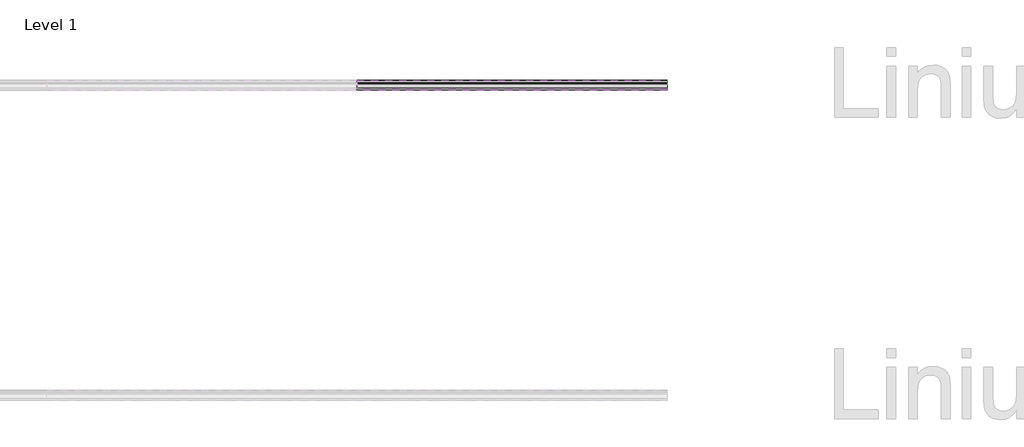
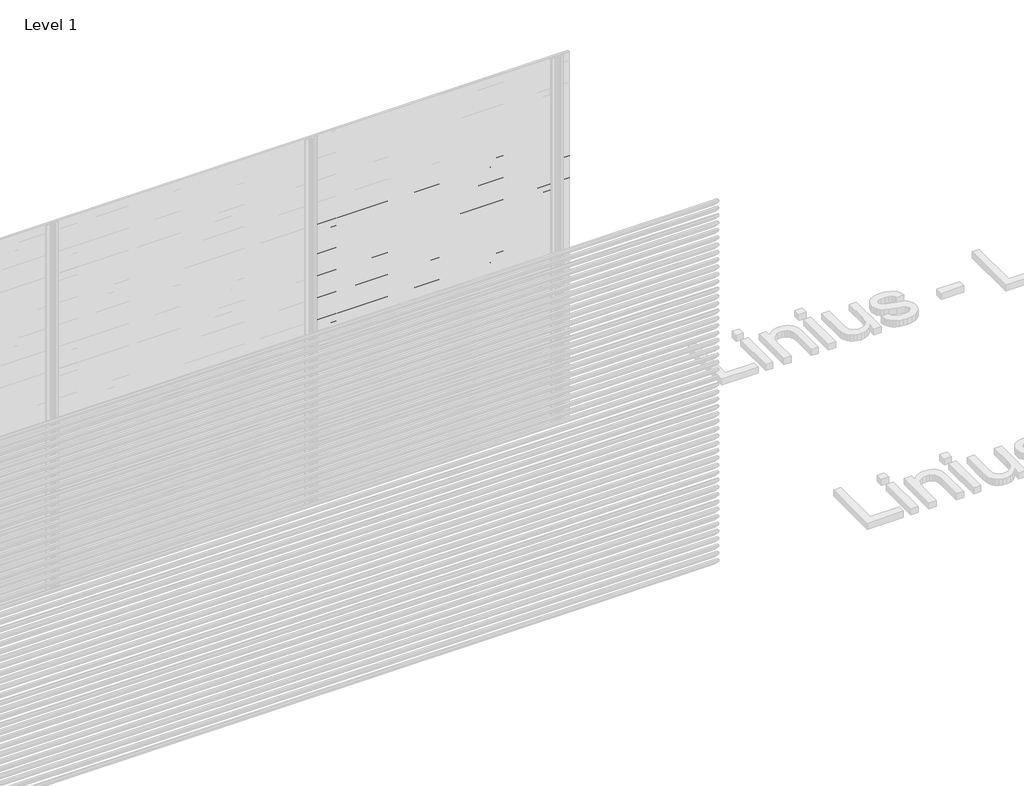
# One storey, part 42 of 153: 33 proxies.
"""IFC4 building model written with IfcOpenShell, lengths in millimetres."""

from ifc_helpers import new_model, si_unit, point, frame, frame_2d, origin, place, context, project, spatial, polyline, circle_curve, trimmed, segment, composite_curve, outline, extrude, element, save

model = new_model("IFC4")

# Units and contexts
model_context = context("Model", 3, world=origin())
ifc_project = project(units=[si_unit("LENGTHUNIT", "METRE", prefix="MILLI")], contexts=[model_context])

# Site, building, storey
site = spatial("IfcSite", under=ifc_project)
building = spatial("IfcBuilding", under=site)
storey = spatial("IfcBuildingStorey", under=building, Name="Level 1", Elevation=0.0)

# Proxies
placement = place(None, origin())
element("IfcBuildingElementProxy", 1, Name="Wall Sweeps", at=placement, inside=storey, context=model_context, shape_type="SweptSolid", body=[
    extrude(outline(composite_curve([segment(polyline([(6989.0270068, 2340.0), (7003.8471842, 2338.7034025), (7053.0270068, 2285.0102749), (7053.0270068, 2273.6108187)]), True, "CONTINUOUS"), segment(trimmed(circle_curve(frame_2d((7049.7613584, 2273.897153)), 3.2781774), [point((7053.0270068, 2273.6108187))], [point((7050.4369373, 2270.6893438))], False, "CARTESIAN"), True, "CONTINUOUS"), segment(polyline([(7050.4369373, 2270.6893438), (7038.1625655, 2271.6282758), (6989.0270068, 2325.2730773), (6989.0270068, 2340.0)]), True, "CONTINUOUS")], self_intersect=False), holes=[composite_curve([segment(polyline([(7003.1351705, 2337.2599659), (6990.5270068, 2338.3630372), (6990.5270068, 2325.856213), (7038.8681968, 2273.0786805), (7050.3042474, 2272.2038762)]), True, "CONTINUOUS"), segment(trimmed(circle_curve(frame_2d((7049.7613584, 2273.897153)), 1.7781774), [point((7050.3042474, 2272.2038762))], [point((7051.5270068, 2273.6864389))], True, "CARTESIAN"), True, "CONTINUOUS"), segment(polyline([(7051.5270068, 2273.6864389), (7051.5270068, 2284.4271392), (7003.1351705, 2337.2599659)]), True, "CONTINUOUS")], self_intersect=False)]), frame((48966.6208096, 0.0, 0.0), z_axis=(1.0, 0.0, 0.0), x_axis=(0.0, 1.0, 0.0)), (0.0, 0.0, 1.0), 2000.0000001),
])
element("IfcBuildingElementProxy", 2, Name="Wall Sweeps", at=placement, inside=storey, context=model_context, shape_type="SweptSolid", body=[
    extrude(outline(composite_curve([segment(polyline([(6989.0270068, 2280.0), (7003.8471842, 2278.7034025), (7053.0270068, 2225.0102749), (7053.0270068, 2213.6108187)]), True, "CONTINUOUS"), segment(trimmed(circle_curve(frame_2d((7049.7613584, 2213.897153)), 3.2781774), [point((7053.0270068, 2213.6108187))], [point((7050.4369373, 2210.6893438))], False, "CARTESIAN"), True, "CONTINUOUS"), segment(polyline([(7050.4369373, 2210.6893438), (7038.1625655, 2211.6282758), (6989.0270068, 2265.2730773), (6989.0270068, 2280.0)]), True, "CONTINUOUS")], self_intersect=False), holes=[composite_curve([segment(polyline([(7003.1351705, 2277.2599659), (6990.5270068, 2278.3630372), (6990.5270068, 2265.856213), (7038.8681968, 2213.0786805), (7050.3042474, 2212.2038762)]), True, "CONTINUOUS"), segment(trimmed(circle_curve(frame_2d((7049.7613584, 2213.897153)), 1.7781774), [point((7050.3042474, 2212.2038762))], [point((7051.5270068, 2213.6864389))], True, "CARTESIAN"), True, "CONTINUOUS"), segment(polyline([(7051.5270068, 2213.6864389), (7051.5270068, 2224.4271392), (7003.1351705, 2277.2599659)]), True, "CONTINUOUS")], self_intersect=False)]), frame((48966.6208096, 0.0, 0.0), z_axis=(1.0, 0.0, 0.0), x_axis=(0.0, 1.0, 0.0)), (0.0, 0.0, 1.0), 2000.0000001),
])
element("IfcBuildingElementProxy", 3, Name="Wall Sweeps", at=placement, inside=storey, context=model_context, shape_type="SweptSolid", body=[
    extrude(outline(composite_curve([segment(polyline([(6989.0270068, 2220.0), (7003.8471842, 2218.7034025), (7053.0270068, 2165.0102749), (7053.0270068, 2153.6108187)]), True, "CONTINUOUS"), segment(trimmed(circle_curve(frame_2d((7049.7613584, 2153.897153)), 3.2781774), [point((7053.0270068, 2153.6108187))], [point((7050.4369373, 2150.6893438))], False, "CARTESIAN"), True, "CONTINUOUS"), segment(polyline([(7050.4369373, 2150.6893438), (7038.1625655, 2151.6282758), (6989.0270068, 2205.2730773), (6989.0270068, 2220.0)]), True, "CONTINUOUS")], self_intersect=False), holes=[composite_curve([segment(polyline([(7003.1351705, 2217.2599659), (6990.5270068, 2218.3630372), (6990.5270068, 2205.856213), (7038.8681968, 2153.0786805), (7050.3042474, 2152.2038762)]), True, "CONTINUOUS"), segment(trimmed(circle_curve(frame_2d((7049.7613584, 2153.897153)), 1.7781774), [point((7050.3042474, 2152.2038762))], [point((7051.5270068, 2153.6864389))], True, "CARTESIAN"), True, "CONTINUOUS"), segment(polyline([(7051.5270068, 2153.6864389), (7051.5270068, 2164.4271392), (7003.1351705, 2217.2599659)]), True, "CONTINUOUS")], self_intersect=False)]), frame((48966.6208096, 0.0, 0.0), z_axis=(1.0, 0.0, 0.0), x_axis=(0.0, 1.0, 0.0)), (0.0, 0.0, 1.0), 2000.0000001),
])
element("IfcBuildingElementProxy", 4, Name="Wall Sweeps", at=placement, inside=storey, context=model_context, shape_type="SweptSolid", body=[
    extrude(outline(composite_curve([segment(polyline([(6989.0270068, 2160.0), (7003.8471842, 2158.7034025), (7053.0270068, 2105.0102749), (7053.0270068, 2093.6108187)]), True, "CONTINUOUS"), segment(trimmed(circle_curve(frame_2d((7049.7613584, 2093.897153)), 3.2781774), [point((7053.0270068, 2093.6108187))], [point((7050.4369373, 2090.6893438))], False, "CARTESIAN"), True, "CONTINUOUS"), segment(polyline([(7050.4369373, 2090.6893438), (7038.1625655, 2091.6282758), (6989.0270068, 2145.2730773), (6989.0270068, 2160.0)]), True, "CONTINUOUS")], self_intersect=False), holes=[composite_curve([segment(polyline([(7003.1351705, 2157.2599659), (6990.5270068, 2158.3630372), (6990.5270068, 2145.856213), (7038.8681968, 2093.0786805), (7050.3042474, 2092.2038762)]), True, "CONTINUOUS"), segment(trimmed(circle_curve(frame_2d((7049.7613584, 2093.897153)), 1.7781774), [point((7050.3042474, 2092.2038762))], [point((7051.5270068, 2093.6864389))], True, "CARTESIAN"), True, "CONTINUOUS"), segment(polyline([(7051.5270068, 2093.6864389), (7051.5270068, 2104.4271392), (7003.1351705, 2157.2599659)]), True, "CONTINUOUS")], self_intersect=False)]), frame((48966.6208096, 0.0, 0.0), z_axis=(1.0, 0.0, 0.0), x_axis=(0.0, 1.0, 0.0)), (0.0, 0.0, 1.0), 2000.0000001),
])
element("IfcBuildingElementProxy", 5, Name="Wall Sweeps", at=placement, inside=storey, context=model_context, shape_type="SweptSolid", body=[
    extrude(outline(composite_curve([segment(polyline([(6989.0270068, 2100.0), (7003.8471842, 2098.7034025), (7053.0270068, 2045.0102749), (7053.0270068, 2033.6108187)]), True, "CONTINUOUS"), segment(trimmed(circle_curve(frame_2d((7049.7613584, 2033.897153)), 3.2781774), [point((7053.0270068, 2033.6108187))], [point((7050.4369373, 2030.6893438))], False, "CARTESIAN"), True, "CONTINUOUS"), segment(polyline([(7050.4369373, 2030.6893438), (7038.1625655, 2031.6282758), (6989.0270068, 2085.2730773), (6989.0270068, 2100.0)]), True, "CONTINUOUS")], self_intersect=False), holes=[composite_curve([segment(polyline([(7003.1351705, 2097.2599659), (6990.5270068, 2098.3630372), (6990.5270068, 2085.856213), (7038.8681968, 2033.0786805), (7050.3042474, 2032.2038762)]), True, "CONTINUOUS"), segment(trimmed(circle_curve(frame_2d((7049.7613584, 2033.897153)), 1.7781774), [point((7050.3042474, 2032.2038762))], [point((7051.5270068, 2033.6864389))], True, "CARTESIAN"), True, "CONTINUOUS"), segment(polyline([(7051.5270068, 2033.6864389), (7051.5270068, 2044.4271392), (7003.1351705, 2097.2599659)]), True, "CONTINUOUS")], self_intersect=False)]), frame((48966.6208096, 0.0, 0.0), z_axis=(1.0, 0.0, 0.0), x_axis=(0.0, 1.0, 0.0)), (0.0, 0.0, 1.0), 2000.0000001),
])
element("IfcBuildingElementProxy", 6, Name="Wall Sweeps", at=placement, inside=storey, context=model_context, shape_type="SweptSolid", body=[
    extrude(outline(composite_curve([segment(polyline([(6989.0270068, 2040.0), (7003.8471842, 2038.7034025), (7053.0270068, 1985.0102749), (7053.0270068, 1973.6108187)]), True, "CONTINUOUS"), segment(trimmed(circle_curve(frame_2d((7049.7613584, 1973.897153)), 3.2781774), [point((7053.0270068, 1973.6108187))], [point((7050.4369373, 1970.6893438))], False, "CARTESIAN"), True, "CONTINUOUS"), segment(polyline([(7050.4369373, 1970.6893438), (7038.1625655, 1971.6282758), (6989.0270068, 2025.2730773), (6989.0270068, 2040.0)]), True, "CONTINUOUS")], self_intersect=False), holes=[composite_curve([segment(polyline([(7003.1351705, 2037.2599659), (6990.5270068, 2038.3630372), (6990.5270068, 2025.856213), (7038.8681968, 1973.0786805), (7050.3042474, 1972.2038762)]), True, "CONTINUOUS"), segment(trimmed(circle_curve(frame_2d((7049.7613584, 1973.897153)), 1.7781774), [point((7050.3042474, 1972.2038762))], [point((7051.5270068, 1973.6864389))], True, "CARTESIAN"), True, "CONTINUOUS"), segment(polyline([(7051.5270068, 1973.6864389), (7051.5270068, 1984.4271392), (7003.1351705, 2037.2599659)]), True, "CONTINUOUS")], self_intersect=False)]), frame((48966.6208096, 0.0, 0.0), z_axis=(1.0, 0.0, 0.0), x_axis=(0.0, 1.0, 0.0)), (0.0, 0.0, 1.0), 2000.0000001),
])
element("IfcBuildingElementProxy", 7, Name="Wall Sweeps", at=placement, inside=storey, context=model_context, shape_type="SweptSolid", body=[
    extrude(outline(composite_curve([segment(polyline([(6989.0270068, 1980.0), (7003.8471842, 1978.7034025), (7053.0270068, 1925.0102749), (7053.0270068, 1913.6108187)]), True, "CONTINUOUS"), segment(trimmed(circle_curve(frame_2d((7049.7613584, 1913.897153)), 3.2781774), [point((7053.0270068, 1913.6108187))], [point((7050.4369373, 1910.6893438))], False, "CARTESIAN"), True, "CONTINUOUS"), segment(polyline([(7050.4369373, 1910.6893438), (7038.1625655, 1911.6282758), (6989.0270068, 1965.2730773), (6989.0270068, 1980.0)]), True, "CONTINUOUS")], self_intersect=False), holes=[composite_curve([segment(polyline([(7003.1351705, 1977.2599659), (6990.5270068, 1978.3630372), (6990.5270068, 1965.856213), (7038.8681968, 1913.0786805), (7050.3042474, 1912.2038762)]), True, "CONTINUOUS"), segment(trimmed(circle_curve(frame_2d((7049.7613584, 1913.897153)), 1.7781774), [point((7050.3042474, 1912.2038762))], [point((7051.5270068, 1913.6864389))], True, "CARTESIAN"), True, "CONTINUOUS"), segment(polyline([(7051.5270068, 1913.6864389), (7051.5270068, 1924.4271392), (7003.1351705, 1977.2599659)]), True, "CONTINUOUS")], self_intersect=False)]), frame((48966.6208096, 0.0, 0.0), z_axis=(1.0, 0.0, 0.0), x_axis=(0.0, 1.0, 0.0)), (0.0, 0.0, 1.0), 2000.0000001),
])
element("IfcBuildingElementProxy", 8, Name="Wall Sweeps", at=placement, inside=storey, context=model_context, shape_type="SweptSolid", body=[
    extrude(outline(composite_curve([segment(polyline([(6989.0270068, 1920.0), (7003.8471842, 1918.7034025), (7053.0270068, 1865.0102749), (7053.0270068, 1853.6108187)]), True, "CONTINUOUS"), segment(trimmed(circle_curve(frame_2d((7049.7613584, 1853.897153)), 3.2781774), [point((7053.0270068, 1853.6108187))], [point((7050.4369373, 1850.6893438))], False, "CARTESIAN"), True, "CONTINUOUS"), segment(polyline([(7050.4369373, 1850.6893438), (7038.1625655, 1851.6282758), (6989.0270068, 1905.2730773), (6989.0270068, 1920.0)]), True, "CONTINUOUS")], self_intersect=False), holes=[composite_curve([segment(polyline([(7003.1351705, 1917.2599659), (6990.5270068, 1918.3630372), (6990.5270068, 1905.856213), (7038.8681968, 1853.0786805), (7050.3042474, 1852.2038762)]), True, "CONTINUOUS"), segment(trimmed(circle_curve(frame_2d((7049.7613584, 1853.897153)), 1.7781774), [point((7050.3042474, 1852.2038762))], [point((7051.5270068, 1853.6864389))], True, "CARTESIAN"), True, "CONTINUOUS"), segment(polyline([(7051.5270068, 1853.6864389), (7051.5270068, 1864.4271392), (7003.1351705, 1917.2599659)]), True, "CONTINUOUS")], self_intersect=False)]), frame((48966.6208096, 0.0, 0.0), z_axis=(1.0, 0.0, 0.0), x_axis=(0.0, 1.0, 0.0)), (0.0, 0.0, 1.0), 2000.0000001),
])
element("IfcBuildingElementProxy", 9, Name="Wall Sweeps", at=placement, inside=storey, context=model_context, shape_type="SweptSolid", body=[
    extrude(outline(composite_curve([segment(polyline([(6989.0270068, 1860.0), (7003.8471842, 1858.7034025), (7053.0270068, 1805.0102749), (7053.0270068, 1793.6108187)]), True, "CONTINUOUS"), segment(trimmed(circle_curve(frame_2d((7049.7613584, 1793.897153)), 3.2781774), [point((7053.0270068, 1793.6108187))], [point((7050.4369373, 1790.6893438))], False, "CARTESIAN"), True, "CONTINUOUS"), segment(polyline([(7050.4369373, 1790.6893438), (7038.1625655, 1791.6282758), (6989.0270068, 1845.2730773), (6989.0270068, 1860.0)]), True, "CONTINUOUS")], self_intersect=False), holes=[composite_curve([segment(polyline([(7003.1351705, 1857.2599659), (6990.5270068, 1858.3630372), (6990.5270068, 1845.856213), (7038.8681968, 1793.0786805), (7050.3042474, 1792.2038762)]), True, "CONTINUOUS"), segment(trimmed(circle_curve(frame_2d((7049.7613584, 1793.897153)), 1.7781774), [point((7050.3042474, 1792.2038762))], [point((7051.5270068, 1793.6864389))], True, "CARTESIAN"), True, "CONTINUOUS"), segment(polyline([(7051.5270068, 1793.6864389), (7051.5270068, 1804.4271392), (7003.1351705, 1857.2599659)]), True, "CONTINUOUS")], self_intersect=False)]), frame((48966.6208096, 0.0, 0.0), z_axis=(1.0, 0.0, 0.0), x_axis=(0.0, 1.0, 0.0)), (0.0, 0.0, 1.0), 2000.0000001),
])
element("IfcBuildingElementProxy", 10, Name="Wall Sweeps", at=placement, inside=storey, context=model_context, shape_type="SweptSolid", body=[
    extrude(outline(composite_curve([segment(polyline([(6989.0270068, 1800.0), (7003.8471842, 1798.7034025), (7053.0270068, 1745.0102749), (7053.0270068, 1733.6108187)]), True, "CONTINUOUS"), segment(trimmed(circle_curve(frame_2d((7049.7613584, 1733.897153)), 3.2781774), [point((7053.0270068, 1733.6108187))], [point((7050.4369373, 1730.6893438))], False, "CARTESIAN"), True, "CONTINUOUS"), segment(polyline([(7050.4369373, 1730.6893438), (7038.1625655, 1731.6282758), (6989.0270068, 1785.2730773), (6989.0270068, 1800.0)]), True, "CONTINUOUS")], self_intersect=False), holes=[composite_curve([segment(polyline([(7003.1351705, 1797.2599659), (6990.5270068, 1798.3630372), (6990.5270068, 1785.856213), (7038.8681968, 1733.0786805), (7050.3042474, 1732.2038762)]), True, "CONTINUOUS"), segment(trimmed(circle_curve(frame_2d((7049.7613584, 1733.897153)), 1.7781774), [point((7050.3042474, 1732.2038762))], [point((7051.5270068, 1733.6864389))], True, "CARTESIAN"), True, "CONTINUOUS"), segment(polyline([(7051.5270068, 1733.6864389), (7051.5270068, 1744.4271392), (7003.1351705, 1797.2599659)]), True, "CONTINUOUS")], self_intersect=False)]), frame((48966.6208096, 0.0, 0.0), z_axis=(1.0, 0.0, 0.0), x_axis=(0.0, 1.0, 0.0)), (0.0, 0.0, 1.0), 2000.0000001),
])
element("IfcBuildingElementProxy", 11, Name="Wall Sweeps", at=placement, inside=storey, context=model_context, shape_type="SweptSolid", body=[
    extrude(outline(composite_curve([segment(polyline([(6989.0270068, 1740.0), (7003.8471842, 1738.7034025), (7053.0270068, 1685.0102749), (7053.0270068, 1673.6108187)]), True, "CONTINUOUS"), segment(trimmed(circle_curve(frame_2d((7049.7613584, 1673.897153)), 3.2781774), [point((7053.0270068, 1673.6108187))], [point((7050.4369373, 1670.6893438))], False, "CARTESIAN"), True, "CONTINUOUS"), segment(polyline([(7050.4369373, 1670.6893438), (7038.1625655, 1671.6282758), (6989.0270068, 1725.2730773), (6989.0270068, 1740.0)]), True, "CONTINUOUS")], self_intersect=False), holes=[composite_curve([segment(polyline([(7003.1351705, 1737.2599659), (6990.5270068, 1738.3630372), (6990.5270068, 1725.856213), (7038.8681968, 1673.0786805), (7050.3042474, 1672.2038762)]), True, "CONTINUOUS"), segment(trimmed(circle_curve(frame_2d((7049.7613584, 1673.897153)), 1.7781774), [point((7050.3042474, 1672.2038762))], [point((7051.5270068, 1673.6864389))], True, "CARTESIAN"), True, "CONTINUOUS"), segment(polyline([(7051.5270068, 1673.6864389), (7051.5270068, 1684.4271392), (7003.1351705, 1737.2599659)]), True, "CONTINUOUS")], self_intersect=False)]), frame((48966.6208096, 0.0, 0.0), z_axis=(1.0, 0.0, 0.0), x_axis=(0.0, 1.0, 0.0)), (0.0, 0.0, 1.0), 2000.0000001),
])
element("IfcBuildingElementProxy", 12, Name="Wall Sweeps", at=placement, inside=storey, context=model_context, shape_type="SweptSolid", body=[
    extrude(outline(composite_curve([segment(polyline([(6989.0270068, 1680.0), (7003.8471842, 1678.7034025), (7053.0270068, 1625.0102749), (7053.0270068, 1613.6108187)]), True, "CONTINUOUS"), segment(trimmed(circle_curve(frame_2d((7049.7613584, 1613.897153)), 3.2781774), [point((7053.0270068, 1613.6108187))], [point((7050.4369373, 1610.6893438))], False, "CARTESIAN"), True, "CONTINUOUS"), segment(polyline([(7050.4369373, 1610.6893438), (7038.1625655, 1611.6282758), (6989.0270068, 1665.2730773), (6989.0270068, 1680.0)]), True, "CONTINUOUS")], self_intersect=False), holes=[composite_curve([segment(polyline([(7003.1351705, 1677.2599659), (6990.5270068, 1678.3630372), (6990.5270068, 1665.856213), (7038.8681968, 1613.0786805), (7050.3042474, 1612.2038762)]), True, "CONTINUOUS"), segment(trimmed(circle_curve(frame_2d((7049.7613584, 1613.897153)), 1.7781774), [point((7050.3042474, 1612.2038762))], [point((7051.5270068, 1613.6864389))], True, "CARTESIAN"), True, "CONTINUOUS"), segment(polyline([(7051.5270068, 1613.6864389), (7051.5270068, 1624.4271392), (7003.1351705, 1677.2599659)]), True, "CONTINUOUS")], self_intersect=False)]), frame((48966.6208096, 0.0, 0.0), z_axis=(1.0, 0.0, 0.0), x_axis=(0.0, 1.0, 0.0)), (0.0, 0.0, 1.0), 2000.0000001),
])
element("IfcBuildingElementProxy", 13, Name="Wall Sweeps", at=placement, inside=storey, context=model_context, shape_type="SweptSolid", body=[
    extrude(outline(composite_curve([segment(polyline([(6989.0270068, 1620.0), (7003.8471842, 1618.7034025), (7053.0270068, 1565.0102749), (7053.0270068, 1553.6108187)]), True, "CONTINUOUS"), segment(trimmed(circle_curve(frame_2d((7049.7613584, 1553.897153)), 3.2781774), [point((7053.0270068, 1553.6108187))], [point((7050.4369373, 1550.6893438))], False, "CARTESIAN"), True, "CONTINUOUS"), segment(polyline([(7050.4369373, 1550.6893438), (7038.1625655, 1551.6282758), (6989.0270068, 1605.2730773), (6989.0270068, 1620.0)]), True, "CONTINUOUS")], self_intersect=False), holes=[composite_curve([segment(polyline([(7003.1351705, 1617.2599659), (6990.5270068, 1618.3630372), (6990.5270068, 1605.856213), (7038.8681968, 1553.0786805), (7050.3042474, 1552.2038762)]), True, "CONTINUOUS"), segment(trimmed(circle_curve(frame_2d((7049.7613584, 1553.897153)), 1.7781774), [point((7050.3042474, 1552.2038762))], [point((7051.5270068, 1553.6864389))], True, "CARTESIAN"), True, "CONTINUOUS"), segment(polyline([(7051.5270068, 1553.6864389), (7051.5270068, 1564.4271392), (7003.1351705, 1617.2599659)]), True, "CONTINUOUS")], self_intersect=False)]), frame((48966.6208096, 0.0, 0.0), z_axis=(1.0, 0.0, 0.0), x_axis=(0.0, 1.0, 0.0)), (0.0, 0.0, 1.0), 2000.0000001),
])
element("IfcBuildingElementProxy", 14, Name="Wall Sweeps", at=placement, inside=storey, context=model_context, shape_type="SweptSolid", body=[
    extrude(outline(composite_curve([segment(polyline([(6989.0270068, 1560.0), (7003.8471842, 1558.7034025), (7053.0270068, 1505.0102749), (7053.0270068, 1493.6108187)]), True, "CONTINUOUS"), segment(trimmed(circle_curve(frame_2d((7049.7613584, 1493.897153)), 3.2781774), [point((7053.0270068, 1493.6108187))], [point((7050.4369373, 1490.6893438))], False, "CARTESIAN"), True, "CONTINUOUS"), segment(polyline([(7050.4369373, 1490.6893438), (7038.1625655, 1491.6282758), (6989.0270068, 1545.2730773), (6989.0270068, 1560.0)]), True, "CONTINUOUS")], self_intersect=False), holes=[composite_curve([segment(polyline([(7003.1351705, 1557.2599659), (6990.5270068, 1558.3630372), (6990.5270068, 1545.856213), (7038.8681968, 1493.0786805), (7050.3042474, 1492.2038762)]), True, "CONTINUOUS"), segment(trimmed(circle_curve(frame_2d((7049.7613584, 1493.897153)), 1.7781774), [point((7050.3042474, 1492.2038762))], [point((7051.5270068, 1493.6864389))], True, "CARTESIAN"), True, "CONTINUOUS"), segment(polyline([(7051.5270068, 1493.6864389), (7051.5270068, 1504.4271392), (7003.1351705, 1557.2599659)]), True, "CONTINUOUS")], self_intersect=False)]), frame((48966.6208096, 0.0, 0.0), z_axis=(1.0, 0.0, 0.0), x_axis=(0.0, 1.0, 0.0)), (0.0, 0.0, 1.0), 2000.0000001),
])
element("IfcBuildingElementProxy", 15, Name="Wall Sweeps", at=placement, inside=storey, context=model_context, shape_type="SweptSolid", body=[
    extrude(outline(composite_curve([segment(polyline([(6989.0270068, 1500.0), (7003.8471842, 1498.7034025), (7053.0270068, 1445.0102749), (7053.0270068, 1433.6108187)]), True, "CONTINUOUS"), segment(trimmed(circle_curve(frame_2d((7049.7613584, 1433.897153)), 3.2781774), [point((7053.0270068, 1433.6108187))], [point((7050.4369373, 1430.6893438))], False, "CARTESIAN"), True, "CONTINUOUS"), segment(polyline([(7050.4369373, 1430.6893438), (7038.1625655, 1431.6282758), (6989.0270068, 1485.2730773), (6989.0270068, 1500.0)]), True, "CONTINUOUS")], self_intersect=False), holes=[composite_curve([segment(polyline([(7003.1351705, 1497.2599659), (6990.5270068, 1498.3630372), (6990.5270068, 1485.856213), (7038.8681968, 1433.0786805), (7050.3042474, 1432.2038762)]), True, "CONTINUOUS"), segment(trimmed(circle_curve(frame_2d((7049.7613584, 1433.897153)), 1.7781774), [point((7050.3042474, 1432.2038762))], [point((7051.5270068, 1433.6864389))], True, "CARTESIAN"), True, "CONTINUOUS"), segment(polyline([(7051.5270068, 1433.6864389), (7051.5270068, 1444.4271392), (7003.1351705, 1497.2599659)]), True, "CONTINUOUS")], self_intersect=False)]), frame((48966.6208096, 0.0, 0.0), z_axis=(1.0, 0.0, 0.0), x_axis=(0.0, 1.0, 0.0)), (0.0, 0.0, 1.0), 2000.0000001),
])
element("IfcBuildingElementProxy", 16, Name="Wall Sweeps", at=placement, inside=storey, context=model_context, shape_type="SweptSolid", body=[
    extrude(outline(composite_curve([segment(polyline([(6989.0270068, 1440.0), (7003.8471842, 1438.7034025), (7053.0270068, 1385.0102749), (7053.0270068, 1373.6108187)]), True, "CONTINUOUS"), segment(trimmed(circle_curve(frame_2d((7049.7613584, 1373.897153)), 3.2781774), [point((7053.0270068, 1373.6108187))], [point((7050.4369373, 1370.6893438))], False, "CARTESIAN"), True, "CONTINUOUS"), segment(polyline([(7050.4369373, 1370.6893438), (7038.1625655, 1371.6282758), (6989.0270068, 1425.2730773), (6989.0270068, 1440.0)]), True, "CONTINUOUS")], self_intersect=False), holes=[composite_curve([segment(polyline([(7003.1351705, 1437.2599659), (6990.5270068, 1438.3630372), (6990.5270068, 1425.856213), (7038.8681968, 1373.0786805), (7050.3042474, 1372.2038762)]), True, "CONTINUOUS"), segment(trimmed(circle_curve(frame_2d((7049.7613584, 1373.897153)), 1.7781774), [point((7050.3042474, 1372.2038762))], [point((7051.5270068, 1373.6864389))], True, "CARTESIAN"), True, "CONTINUOUS"), segment(polyline([(7051.5270068, 1373.6864389), (7051.5270068, 1384.4271392), (7003.1351705, 1437.2599659)]), True, "CONTINUOUS")], self_intersect=False)]), frame((48966.6208096, 0.0, 0.0), z_axis=(1.0, 0.0, 0.0), x_axis=(0.0, 1.0, 0.0)), (0.0, 0.0, 1.0), 2000.0000001),
])
element("IfcBuildingElementProxy", 17, Name="Wall Sweeps", at=placement, inside=storey, context=model_context, shape_type="SweptSolid", body=[
    extrude(outline(composite_curve([segment(polyline([(6989.0270068, 1380.0), (7003.8471842, 1378.7034025), (7053.0270068, 1325.0102749), (7053.0270068, 1313.6108187)]), True, "CONTINUOUS"), segment(trimmed(circle_curve(frame_2d((7049.7613584, 1313.897153)), 3.2781774), [point((7053.0270068, 1313.6108187))], [point((7050.4369373, 1310.6893438))], False, "CARTESIAN"), True, "CONTINUOUS"), segment(polyline([(7050.4369373, 1310.6893438), (7038.1625655, 1311.6282758), (6989.0270068, 1365.2730773), (6989.0270068, 1380.0)]), True, "CONTINUOUS")], self_intersect=False), holes=[composite_curve([segment(polyline([(7003.1351705, 1377.2599659), (6990.5270068, 1378.3630372), (6990.5270068, 1365.856213), (7038.8681968, 1313.0786805), (7050.3042474, 1312.2038762)]), True, "CONTINUOUS"), segment(trimmed(circle_curve(frame_2d((7049.7613584, 1313.897153)), 1.7781774), [point((7050.3042474, 1312.2038762))], [point((7051.5270068, 1313.6864389))], True, "CARTESIAN"), True, "CONTINUOUS"), segment(polyline([(7051.5270068, 1313.6864389), (7051.5270068, 1324.4271392), (7003.1351705, 1377.2599659)]), True, "CONTINUOUS")], self_intersect=False)]), frame((48966.6208096, 0.0, 0.0), z_axis=(1.0, 0.0, 0.0), x_axis=(0.0, 1.0, 0.0)), (0.0, 0.0, 1.0), 2000.0000001),
])
element("IfcBuildingElementProxy", 18, Name="Wall Sweeps", at=placement, inside=storey, context=model_context, shape_type="SweptSolid", body=[
    extrude(outline(composite_curve([segment(polyline([(6989.0270068, 1320.0), (7003.8471842, 1318.7034025), (7053.0270068, 1265.0102749), (7053.0270068, 1253.6108187)]), True, "CONTINUOUS"), segment(trimmed(circle_curve(frame_2d((7049.7613584, 1253.897153)), 3.2781774), [point((7053.0270068, 1253.6108187))], [point((7050.4369373, 1250.6893438))], False, "CARTESIAN"), True, "CONTINUOUS"), segment(polyline([(7050.4369373, 1250.6893438), (7038.1625655, 1251.6282758), (6989.0270068, 1305.2730773), (6989.0270068, 1320.0)]), True, "CONTINUOUS")], self_intersect=False), holes=[composite_curve([segment(polyline([(7003.1351705, 1317.2599659), (6990.5270068, 1318.3630372), (6990.5270068, 1305.856213), (7038.8681968, 1253.0786805), (7050.3042474, 1252.2038762)]), True, "CONTINUOUS"), segment(trimmed(circle_curve(frame_2d((7049.7613584, 1253.897153)), 1.7781774), [point((7050.3042474, 1252.2038762))], [point((7051.5270068, 1253.6864389))], True, "CARTESIAN"), True, "CONTINUOUS"), segment(polyline([(7051.5270068, 1253.6864389), (7051.5270068, 1264.4271392), (7003.1351705, 1317.2599659)]), True, "CONTINUOUS")], self_intersect=False)]), frame((48966.6208096, 0.0, 0.0), z_axis=(1.0, 0.0, 0.0), x_axis=(0.0, 1.0, 0.0)), (0.0, 0.0, 1.0), 2000.0000001),
])
element("IfcBuildingElementProxy", 19, Name="Wall Sweeps", at=placement, inside=storey, context=model_context, shape_type="SweptSolid", body=[
    extrude(outline(composite_curve([segment(polyline([(6989.0270068, 1260.0), (7003.8471842, 1258.7034025), (7053.0270068, 1205.0102749), (7053.0270068, 1193.6108187)]), True, "CONTINUOUS"), segment(trimmed(circle_curve(frame_2d((7049.7613584, 1193.897153)), 3.2781774), [point((7053.0270068, 1193.6108187))], [point((7050.4369373, 1190.6893438))], False, "CARTESIAN"), True, "CONTINUOUS"), segment(polyline([(7050.4369373, 1190.6893438), (7038.1625655, 1191.6282758), (6989.0270068, 1245.2730773), (6989.0270068, 1260.0)]), True, "CONTINUOUS")], self_intersect=False), holes=[composite_curve([segment(polyline([(7003.1351705, 1257.2599659), (6990.5270068, 1258.3630372), (6990.5270068, 1245.856213), (7038.8681968, 1193.0786805), (7050.3042474, 1192.2038762)]), True, "CONTINUOUS"), segment(trimmed(circle_curve(frame_2d((7049.7613584, 1193.897153)), 1.7781774), [point((7050.3042474, 1192.2038762))], [point((7051.5270068, 1193.6864389))], True, "CARTESIAN"), True, "CONTINUOUS"), segment(polyline([(7051.5270068, 1193.6864389), (7051.5270068, 1204.4271392), (7003.1351705, 1257.2599659)]), True, "CONTINUOUS")], self_intersect=False)]), frame((48966.6208096, 0.0, 0.0), z_axis=(1.0, 0.0, 0.0), x_axis=(0.0, 1.0, 0.0)), (0.0, 0.0, 1.0), 2000.0000001),
])
element("IfcBuildingElementProxy", 20, Name="Wall Sweeps", at=placement, inside=storey, context=model_context, shape_type="SweptSolid", body=[
    extrude(outline(composite_curve([segment(polyline([(6989.0270068, 1200.0), (7003.8471842, 1198.7034025), (7053.0270068, 1145.0102749), (7053.0270068, 1133.6108187)]), True, "CONTINUOUS"), segment(trimmed(circle_curve(frame_2d((7049.7613584, 1133.897153)), 3.2781774), [point((7053.0270068, 1133.6108187))], [point((7050.4369373, 1130.6893438))], False, "CARTESIAN"), True, "CONTINUOUS"), segment(polyline([(7050.4369373, 1130.6893438), (7038.1625655, 1131.6282758), (6989.0270068, 1185.2730773), (6989.0270068, 1200.0)]), True, "CONTINUOUS")], self_intersect=False), holes=[composite_curve([segment(polyline([(7003.1351705, 1197.2599659), (6990.5270068, 1198.3630372), (6990.5270068, 1185.856213), (7038.8681968, 1133.0786805), (7050.3042474, 1132.2038762)]), True, "CONTINUOUS"), segment(trimmed(circle_curve(frame_2d((7049.7613584, 1133.897153)), 1.7781774), [point((7050.3042474, 1132.2038762))], [point((7051.5270068, 1133.6864389))], True, "CARTESIAN"), True, "CONTINUOUS"), segment(polyline([(7051.5270068, 1133.6864389), (7051.5270068, 1144.4271392), (7003.1351705, 1197.2599659)]), True, "CONTINUOUS")], self_intersect=False)]), frame((48966.6208096, 0.0, 0.0), z_axis=(1.0, 0.0, 0.0), x_axis=(0.0, 1.0, 0.0)), (0.0, 0.0, 1.0), 2000.0000001),
])
element("IfcBuildingElementProxy", 21, Name="Wall Sweeps", at=placement, inside=storey, context=model_context, shape_type="SweptSolid", body=[
    extrude(outline(composite_curve([segment(polyline([(6989.0270068, 1140.0), (7003.8471842, 1138.7034025), (7053.0270068, 1085.0102749), (7053.0270068, 1073.6108187)]), True, "CONTINUOUS"), segment(trimmed(circle_curve(frame_2d((7049.7613584, 1073.897153)), 3.2781774), [point((7053.0270068, 1073.6108187))], [point((7050.4369373, 1070.6893438))], False, "CARTESIAN"), True, "CONTINUOUS"), segment(polyline([(7050.4369373, 1070.6893438), (7038.1625655, 1071.6282758), (6989.0270068, 1125.2730773), (6989.0270068, 1140.0)]), True, "CONTINUOUS")], self_intersect=False), holes=[composite_curve([segment(polyline([(7003.1351705, 1137.2599659), (6990.5270068, 1138.3630372), (6990.5270068, 1125.856213), (7038.8681968, 1073.0786805), (7050.3042474, 1072.2038762)]), True, "CONTINUOUS"), segment(trimmed(circle_curve(frame_2d((7049.7613584, 1073.897153)), 1.7781774), [point((7050.3042474, 1072.2038762))], [point((7051.5270068, 1073.6864389))], True, "CARTESIAN"), True, "CONTINUOUS"), segment(polyline([(7051.5270068, 1073.6864389), (7051.5270068, 1084.4271392), (7003.1351705, 1137.2599659)]), True, "CONTINUOUS")], self_intersect=False)]), frame((48966.6208096, 0.0, 0.0), z_axis=(1.0, 0.0, 0.0), x_axis=(0.0, 1.0, 0.0)), (0.0, 0.0, 1.0), 2000.0000001),
])
element("IfcBuildingElementProxy", 22, Name="Wall Sweeps", at=placement, inside=storey, context=model_context, shape_type="SweptSolid", body=[
    extrude(outline(composite_curve([segment(polyline([(6989.0270068, 1080.0), (7003.8471842, 1078.7034025), (7053.0270068, 1025.0102749), (7053.0270068, 1013.6108187)]), True, "CONTINUOUS"), segment(trimmed(circle_curve(frame_2d((7049.7613584, 1013.897153)), 3.2781774), [point((7053.0270068, 1013.6108187))], [point((7050.4369373, 1010.6893438))], False, "CARTESIAN"), True, "CONTINUOUS"), segment(polyline([(7050.4369373, 1010.6893438), (7038.1625655, 1011.6282758), (6989.0270068, 1065.2730773), (6989.0270068, 1080.0)]), True, "CONTINUOUS")], self_intersect=False), holes=[composite_curve([segment(polyline([(7003.1351705, 1077.2599659), (6990.5270068, 1078.3630372), (6990.5270068, 1065.856213), (7038.8681968, 1013.0786805), (7050.3042474, 1012.2038762)]), True, "CONTINUOUS"), segment(trimmed(circle_curve(frame_2d((7049.7613584, 1013.897153)), 1.7781774), [point((7050.3042474, 1012.2038762))], [point((7051.5270068, 1013.6864389))], True, "CARTESIAN"), True, "CONTINUOUS"), segment(polyline([(7051.5270068, 1013.6864389), (7051.5270068, 1024.4271392), (7003.1351705, 1077.2599659)]), True, "CONTINUOUS")], self_intersect=False)]), frame((48966.6208096, 0.0, 0.0), z_axis=(1.0, 0.0, 0.0), x_axis=(0.0, 1.0, 0.0)), (0.0, 0.0, 1.0), 2000.0000001),
])
element("IfcBuildingElementProxy", 23, Name="Wall Sweeps", at=placement, inside=storey, context=model_context, shape_type="SweptSolid", body=[
    extrude(outline(composite_curve([segment(polyline([(6989.0270068, 1020.0), (7003.8471842, 1018.7034025), (7053.0270068, 965.0102749), (7053.0270068, 953.6108187)]), True, "CONTINUOUS"), segment(trimmed(circle_curve(frame_2d((7049.7613584, 953.897153)), 3.2781774), [point((7053.0270068, 953.6108187))], [point((7050.4369373, 950.6893438))], False, "CARTESIAN"), True, "CONTINUOUS"), segment(polyline([(7050.4369373, 950.6893438), (7038.1625655, 951.6282758), (6989.0270068, 1005.2730773), (6989.0270068, 1020.0)]), True, "CONTINUOUS")], self_intersect=False), holes=[composite_curve([segment(polyline([(7003.1351705, 1017.2599659), (6990.5270068, 1018.3630372), (6990.5270068, 1005.856213), (7038.8681968, 953.0786805), (7050.3042474, 952.2038762)]), True, "CONTINUOUS"), segment(trimmed(circle_curve(frame_2d((7049.7613584, 953.897153)), 1.7781774), [point((7050.3042474, 952.2038762))], [point((7051.5270068, 953.6864389))], True, "CARTESIAN"), True, "CONTINUOUS"), segment(polyline([(7051.5270068, 953.6864389), (7051.5270068, 964.4271392), (7003.1351705, 1017.2599659)]), True, "CONTINUOUS")], self_intersect=False)]), frame((48966.6208096, 0.0, 0.0), z_axis=(1.0, 0.0, 0.0), x_axis=(0.0, 1.0, 0.0)), (0.0, 0.0, 1.0), 2000.0000001),
])
element("IfcBuildingElementProxy", 24, Name="Wall Sweeps", at=placement, inside=storey, context=model_context, shape_type="SweptSolid", body=[
    extrude(outline(composite_curve([segment(polyline([(6989.0270068, 960.0), (7003.8471842, 958.7034025), (7053.0270068, 905.0102749), (7053.0270068, 893.6108187)]), True, "CONTINUOUS"), segment(trimmed(circle_curve(frame_2d((7049.7613584, 893.897153)), 3.2781774), [point((7053.0270068, 893.6108187))], [point((7050.4369373, 890.6893438))], False, "CARTESIAN"), True, "CONTINUOUS"), segment(polyline([(7050.4369373, 890.6893438), (7038.1625655, 891.6282758), (6989.0270068, 945.2730773), (6989.0270068, 960.0)]), True, "CONTINUOUS")], self_intersect=False), holes=[composite_curve([segment(polyline([(7003.1351705, 957.2599659), (6990.5270068, 958.3630372), (6990.5270068, 945.856213), (7038.8681968, 893.0786805), (7050.3042474, 892.2038762)]), True, "CONTINUOUS"), segment(trimmed(circle_curve(frame_2d((7049.7613584, 893.897153)), 1.7781774), [point((7050.3042474, 892.2038762))], [point((7051.5270068, 893.6864389))], True, "CARTESIAN"), True, "CONTINUOUS"), segment(polyline([(7051.5270068, 893.6864389), (7051.5270068, 904.4271392), (7003.1351705, 957.2599659)]), True, "CONTINUOUS")], self_intersect=False)]), frame((48966.6208096, 0.0, 0.0), z_axis=(1.0, 0.0, 0.0), x_axis=(0.0, 1.0, 0.0)), (0.0, 0.0, 1.0), 2000.0000001),
])
element("IfcBuildingElementProxy", 25, Name="Wall Sweeps", at=placement, inside=storey, context=model_context, shape_type="SweptSolid", body=[
    extrude(outline(composite_curve([segment(polyline([(6989.0270068, 900.0), (7003.8471842, 898.7034025), (7053.0270068, 845.0102749), (7053.0270068, 833.6108187)]), True, "CONTINUOUS"), segment(trimmed(circle_curve(frame_2d((7049.7613584, 833.897153)), 3.2781774), [point((7053.0270068, 833.6108187))], [point((7050.4369373, 830.6893438))], False, "CARTESIAN"), True, "CONTINUOUS"), segment(polyline([(7050.4369373, 830.6893438), (7038.1625655, 831.6282758), (6989.0270068, 885.2730773), (6989.0270068, 900.0)]), True, "CONTINUOUS")], self_intersect=False), holes=[composite_curve([segment(polyline([(7003.1351705, 897.2599659), (6990.5270068, 898.3630372), (6990.5270068, 885.856213), (7038.8681968, 833.0786805), (7050.3042474, 832.2038762)]), True, "CONTINUOUS"), segment(trimmed(circle_curve(frame_2d((7049.7613584, 833.897153)), 1.7781774), [point((7050.3042474, 832.2038762))], [point((7051.5270068, 833.6864389))], True, "CARTESIAN"), True, "CONTINUOUS"), segment(polyline([(7051.5270068, 833.6864389), (7051.5270068, 844.4271392), (7003.1351705, 897.2599659)]), True, "CONTINUOUS")], self_intersect=False)]), frame((48966.6208096, 0.0, 0.0), z_axis=(1.0, 0.0, 0.0), x_axis=(0.0, 1.0, 0.0)), (0.0, 0.0, 1.0), 2000.0000001),
])
element("IfcBuildingElementProxy", 26, Name="Wall Sweeps", at=placement, inside=storey, context=model_context, shape_type="SweptSolid", body=[
    extrude(outline(composite_curve([segment(polyline([(6989.0270068, 840.0), (7003.8471842, 838.7034025), (7053.0270068, 785.0102749), (7053.0270068, 773.6108187)]), True, "CONTINUOUS"), segment(trimmed(circle_curve(frame_2d((7049.7613584, 773.897153)), 3.2781774), [point((7053.0270068, 773.6108187))], [point((7050.4369373, 770.6893438))], False, "CARTESIAN"), True, "CONTINUOUS"), segment(polyline([(7050.4369373, 770.6893438), (7038.1625655, 771.6282758), (6989.0270068, 825.2730773), (6989.0270068, 840.0)]), True, "CONTINUOUS")], self_intersect=False), holes=[composite_curve([segment(polyline([(7003.1351705, 837.2599659), (6990.5270068, 838.3630372), (6990.5270068, 825.856213), (7038.8681968, 773.0786805), (7050.3042474, 772.2038762)]), True, "CONTINUOUS"), segment(trimmed(circle_curve(frame_2d((7049.7613584, 773.897153)), 1.7781774), [point((7050.3042474, 772.2038762))], [point((7051.5270068, 773.6864389))], True, "CARTESIAN"), True, "CONTINUOUS"), segment(polyline([(7051.5270068, 773.6864389), (7051.5270068, 784.4271392), (7003.1351705, 837.2599659)]), True, "CONTINUOUS")], self_intersect=False)]), frame((48966.6208096, 0.0, 0.0), z_axis=(1.0, 0.0, 0.0), x_axis=(0.0, 1.0, 0.0)), (0.0, 0.0, 1.0), 2000.0000001),
])
element("IfcBuildingElementProxy", 27, Name="Wall Sweeps", at=placement, inside=storey, context=model_context, shape_type="SweptSolid", body=[
    extrude(outline(composite_curve([segment(polyline([(6989.0270068, 780.0), (7003.8471842, 778.7034025), (7053.0270068, 725.0102749), (7053.0270068, 713.6108187)]), True, "CONTINUOUS"), segment(trimmed(circle_curve(frame_2d((7049.7613584, 713.897153)), 3.2781774), [point((7053.0270068, 713.6108187))], [point((7050.4369373, 710.6893438))], False, "CARTESIAN"), True, "CONTINUOUS"), segment(polyline([(7050.4369373, 710.6893438), (7038.1625655, 711.6282758), (6989.0270068, 765.2730773), (6989.0270068, 780.0)]), True, "CONTINUOUS")], self_intersect=False), holes=[composite_curve([segment(polyline([(7003.1351705, 777.2599659), (6990.5270068, 778.3630372), (6990.5270068, 765.856213), (7038.8681968, 713.0786805), (7050.3042474, 712.2038762)]), True, "CONTINUOUS"), segment(trimmed(circle_curve(frame_2d((7049.7613584, 713.897153)), 1.7781774), [point((7050.3042474, 712.2038762))], [point((7051.5270068, 713.6864389))], True, "CARTESIAN"), True, "CONTINUOUS"), segment(polyline([(7051.5270068, 713.6864389), (7051.5270068, 724.4271392), (7003.1351705, 777.2599659)]), True, "CONTINUOUS")], self_intersect=False)]), frame((48966.6208096, 0.0, 0.0), z_axis=(1.0, 0.0, 0.0), x_axis=(0.0, 1.0, 0.0)), (0.0, 0.0, 1.0), 2000.0000001),
])
element("IfcBuildingElementProxy", 28, Name="Wall Sweeps", at=placement, inside=storey, context=model_context, shape_type="SweptSolid", body=[
    extrude(outline(composite_curve([segment(polyline([(6989.0270068, 720.0), (7003.8471842, 718.7034025), (7053.0270068, 665.0102749), (7053.0270068, 653.6108187)]), True, "CONTINUOUS"), segment(trimmed(circle_curve(frame_2d((7049.7613584, 653.897153)), 3.2781774), [point((7053.0270068, 653.6108187))], [point((7050.4369373, 650.6893438))], False, "CARTESIAN"), True, "CONTINUOUS"), segment(polyline([(7050.4369373, 650.6893438), (7038.1625655, 651.6282758), (6989.0270068, 705.2730773), (6989.0270068, 720.0)]), True, "CONTINUOUS")], self_intersect=False), holes=[composite_curve([segment(polyline([(7003.1351705, 717.2599659), (6990.5270068, 718.3630372), (6990.5270068, 705.856213), (7038.8681968, 653.0786805), (7050.3042474, 652.2038762)]), True, "CONTINUOUS"), segment(trimmed(circle_curve(frame_2d((7049.7613584, 653.897153)), 1.7781774), [point((7050.3042474, 652.2038762))], [point((7051.5270068, 653.6864389))], True, "CARTESIAN"), True, "CONTINUOUS"), segment(polyline([(7051.5270068, 653.6864389), (7051.5270068, 664.4271392), (7003.1351705, 717.2599659)]), True, "CONTINUOUS")], self_intersect=False)]), frame((48966.6208096, 0.0, 0.0), z_axis=(1.0, 0.0, 0.0), x_axis=(0.0, 1.0, 0.0)), (0.0, 0.0, 1.0), 2000.0000001),
])
element("IfcBuildingElementProxy", 29, Name="Wall Sweeps", at=placement, inside=storey, context=model_context, shape_type="SweptSolid", body=[
    extrude(outline(composite_curve([segment(polyline([(6989.0270068, 660.0), (7003.8471842, 658.7034025), (7053.0270068, 605.0102749), (7053.0270068, 593.6108187)]), True, "CONTINUOUS"), segment(trimmed(circle_curve(frame_2d((7049.7613584, 593.897153)), 3.2781774), [point((7053.0270068, 593.6108187))], [point((7050.4369373, 590.6893438))], False, "CARTESIAN"), True, "CONTINUOUS"), segment(polyline([(7050.4369373, 590.6893438), (7038.1625655, 591.6282758), (6989.0270068, 645.2730773), (6989.0270068, 660.0)]), True, "CONTINUOUS")], self_intersect=False), holes=[composite_curve([segment(polyline([(7003.1351705, 657.2599659), (6990.5270068, 658.3630372), (6990.5270068, 645.856213), (7038.8681968, 593.0786805), (7050.3042474, 592.2038762)]), True, "CONTINUOUS"), segment(trimmed(circle_curve(frame_2d((7049.7613584, 593.897153)), 1.7781774), [point((7050.3042474, 592.2038762))], [point((7051.5270068, 593.6864389))], True, "CARTESIAN"), True, "CONTINUOUS"), segment(polyline([(7051.5270068, 593.6864389), (7051.5270068, 604.4271392), (7003.1351705, 657.2599659)]), True, "CONTINUOUS")], self_intersect=False)]), frame((48966.6208096, 0.0, 0.0), z_axis=(1.0, 0.0, 0.0), x_axis=(0.0, 1.0, 0.0)), (0.0, 0.0, 1.0), 2000.0000001),
])
element("IfcBuildingElementProxy", 30, Name="Wall Sweeps", at=placement, inside=storey, context=model_context, shape_type="SweptSolid", body=[
    extrude(outline(composite_curve([segment(polyline([(6989.0270068, 600.0), (7003.8471842, 598.7034025), (7053.0270068, 545.0102749), (7053.0270068, 533.6108187)]), True, "CONTINUOUS"), segment(trimmed(circle_curve(frame_2d((7049.7613584, 533.897153)), 3.2781774), [point((7053.0270068, 533.6108187))], [point((7050.4369373, 530.6893438))], False, "CARTESIAN"), True, "CONTINUOUS"), segment(polyline([(7050.4369373, 530.6893438), (7038.1625655, 531.6282758), (6989.0270068, 585.2730773), (6989.0270068, 600.0)]), True, "CONTINUOUS")], self_intersect=False), holes=[composite_curve([segment(polyline([(7003.1351705, 597.2599659), (6990.5270068, 598.3630372), (6990.5270068, 585.856213), (7038.8681968, 533.0786805), (7050.3042474, 532.2038762)]), True, "CONTINUOUS"), segment(trimmed(circle_curve(frame_2d((7049.7613584, 533.897153)), 1.7781774), [point((7050.3042474, 532.2038762))], [point((7051.5270068, 533.6864389))], True, "CARTESIAN"), True, "CONTINUOUS"), segment(polyline([(7051.5270068, 533.6864389), (7051.5270068, 544.4271392), (7003.1351705, 597.2599659)]), True, "CONTINUOUS")], self_intersect=False)]), frame((48966.6208096, 0.0, 0.0), z_axis=(1.0, 0.0, 0.0), x_axis=(0.0, 1.0, 0.0)), (0.0, 0.0, 1.0), 2000.0000001),
])
element("IfcBuildingElementProxy", 31, Name="Wall Sweeps", at=placement, inside=storey, context=model_context, shape_type="SweptSolid", body=[
    extrude(outline(composite_curve([segment(polyline([(6989.0270068, 540.0), (7003.8471842, 538.7034025), (7053.0270068, 485.0102749), (7053.0270068, 473.6108187)]), True, "CONTINUOUS"), segment(trimmed(circle_curve(frame_2d((7049.7613584, 473.897153)), 3.2781774), [point((7053.0270068, 473.6108187))], [point((7050.4369373, 470.6893438))], False, "CARTESIAN"), True, "CONTINUOUS"), segment(polyline([(7050.4369373, 470.6893438), (7038.1625655, 471.6282758), (6989.0270068, 525.2730773), (6989.0270068, 540.0)]), True, "CONTINUOUS")], self_intersect=False), holes=[composite_curve([segment(polyline([(7003.1351705, 537.2599659), (6990.5270068, 538.3630372), (6990.5270068, 525.856213), (7038.8681968, 473.0786805), (7050.3042474, 472.2038762)]), True, "CONTINUOUS"), segment(trimmed(circle_curve(frame_2d((7049.7613584, 473.897153)), 1.7781774), [point((7050.3042474, 472.2038762))], [point((7051.5270068, 473.6864389))], True, "CARTESIAN"), True, "CONTINUOUS"), segment(polyline([(7051.5270068, 473.6864389), (7051.5270068, 484.4271392), (7003.1351705, 537.2599659)]), True, "CONTINUOUS")], self_intersect=False)]), frame((48966.6208096, 0.0, 0.0), z_axis=(1.0, 0.0, 0.0), x_axis=(0.0, 1.0, 0.0)), (0.0, 0.0, 1.0), 2000.0000001),
])
element("IfcBuildingElementProxy", 32, Name="Wall Sweeps", at=placement, inside=storey, context=model_context, shape_type="SweptSolid", body=[
    extrude(outline(composite_curve([segment(polyline([(6989.0270068, 480.0), (7003.8471842, 478.7034025), (7053.0270068, 425.0102749), (7053.0270068, 413.6108187)]), True, "CONTINUOUS"), segment(trimmed(circle_curve(frame_2d((7049.7613584, 413.897153)), 3.2781774), [point((7053.0270068, 413.6108187))], [point((7050.4369373, 410.6893438))], False, "CARTESIAN"), True, "CONTINUOUS"), segment(polyline([(7050.4369373, 410.6893438), (7038.1625655, 411.6282758), (6989.0270068, 465.2730773), (6989.0270068, 480.0)]), True, "CONTINUOUS")], self_intersect=False), holes=[composite_curve([segment(polyline([(7003.1351705, 477.2599659), (6990.5270068, 478.3630372), (6990.5270068, 465.856213), (7038.8681968, 413.0786805), (7050.3042474, 412.2038762)]), True, "CONTINUOUS"), segment(trimmed(circle_curve(frame_2d((7049.7613584, 413.897153)), 1.7781774), [point((7050.3042474, 412.2038762))], [point((7051.5270068, 413.6864389))], True, "CARTESIAN"), True, "CONTINUOUS"), segment(polyline([(7051.5270068, 413.6864389), (7051.5270068, 424.4271392), (7003.1351705, 477.2599659)]), True, "CONTINUOUS")], self_intersect=False)]), frame((48966.6208096, 0.0, 0.0), z_axis=(1.0, 0.0, 0.0), x_axis=(0.0, 1.0, 0.0)), (0.0, 0.0, 1.0), 2000.0000001),
])
element("IfcBuildingElementProxy", 33, Name="Wall Sweeps", at=placement, inside=storey, context=model_context, shape_type="SweptSolid", body=[
    extrude(outline(composite_curve([segment(polyline([(6989.0270068, 420.0), (7003.8471842, 418.7034025), (7053.0270068, 365.0102749), (7053.0270068, 353.6108187)]), True, "CONTINUOUS"), segment(trimmed(circle_curve(frame_2d((7049.7613584, 353.897153)), 3.2781774), [point((7053.0270068, 353.6108187))], [point((7050.4369373, 350.6893438))], False, "CARTESIAN"), True, "CONTINUOUS"), segment(polyline([(7050.4369373, 350.6893438), (7038.1625655, 351.6282758), (6989.0270068, 405.2730773), (6989.0270068, 420.0)]), True, "CONTINUOUS")], self_intersect=False), holes=[composite_curve([segment(polyline([(7003.1351705, 417.2599659), (6990.5270068, 418.3630372), (6990.5270068, 405.856213), (7038.8681968, 353.0786805), (7050.3042474, 352.2038762)]), True, "CONTINUOUS"), segment(trimmed(circle_curve(frame_2d((7049.7613584, 353.897153)), 1.7781774), [point((7050.3042474, 352.2038762))], [point((7051.5270068, 353.6864389))], True, "CARTESIAN"), True, "CONTINUOUS"), segment(polyline([(7051.5270068, 353.6864389), (7051.5270068, 364.4271392), (7003.1351705, 417.2599659)]), True, "CONTINUOUS")], self_intersect=False)]), frame((48966.6208096, 0.0, 0.0), z_axis=(1.0, 0.0, 0.0), x_axis=(0.0, 1.0, 0.0)), (0.0, 0.0, 1.0), 2000.0000001),
])

save(model, "model.ifc")
